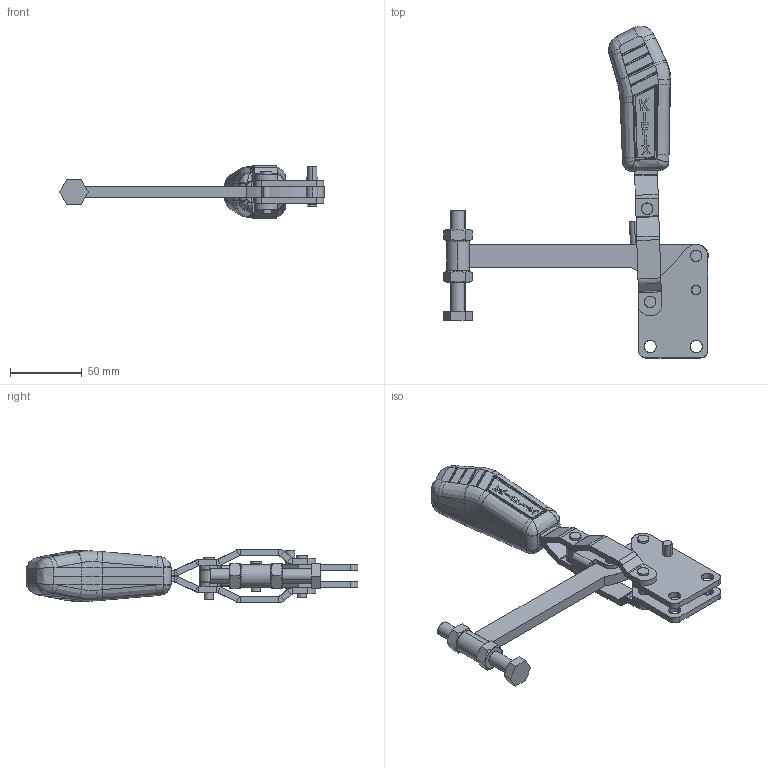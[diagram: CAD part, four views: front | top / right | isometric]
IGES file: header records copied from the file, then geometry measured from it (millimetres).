
Start section: SolidWorks IGES file using analytic representation for surfaces
Global section: file name: C:\Projetos\Grampos\KF-011\KF-011 RS\KF-011 RS.IGS; native system: SolidWorks 2013; preprocessor: SolidWorks 2013; author: Ricardo; date: 140728.100901; units: millimetre
Bounding box: 183.75 x 230.79 x 37 mm (x, y, z)
Surface area: 68323.6 mm2 (no closed solid volume)
Topology: 0 solids, 0 shells, 725 faces, 7854 edges, 7823 vertices
Faces by surface type: bspline 445, revolution 280
